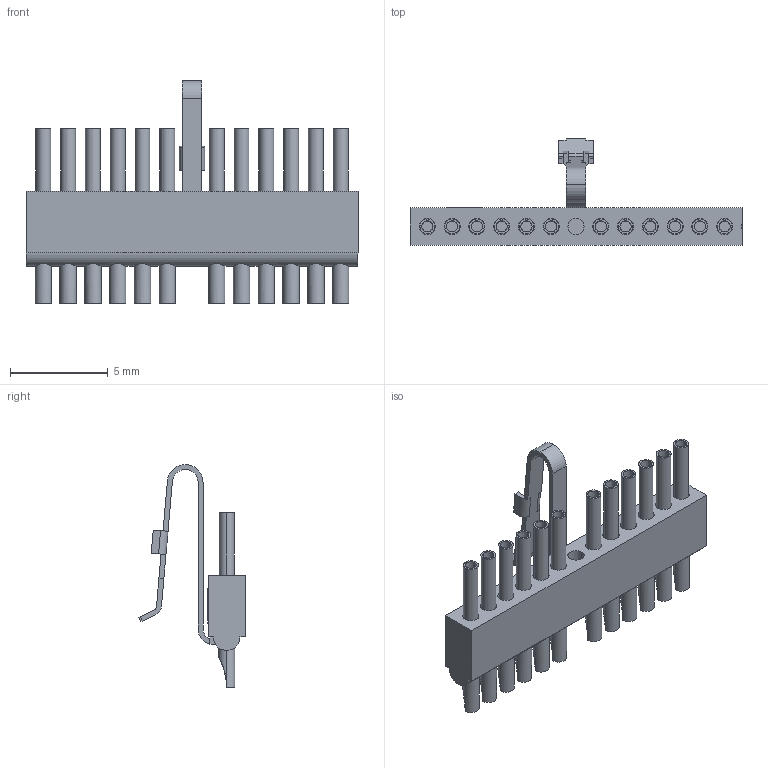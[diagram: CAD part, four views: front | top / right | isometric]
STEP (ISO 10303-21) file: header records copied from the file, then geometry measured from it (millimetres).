
FILE_DESCRIPTION (( 'STEP AP214' ), '1' );
FILE_NAME ('A25001-012.STEP', '2015-11-04T15:02:50', ( '' ), ( '' ), 'SwSTEP 2.0', 'SolidWorks 2015', '' );
FILE_SCHEMA (( 'AUTOMOTIVE_DESIGN' ));
Length unit declared in the file: inch
Products named in the file (1): A25001-012
Bounding box: 17.02 x 5.45 x 11.43 mm (x, y, z)
Volume: 123.5 mm3; surface area: 632.4 mm2
Topology: 1 solids, 13 shells, 410 faces, 873 edges, 556 vertices
Faces by surface type: cylinder 239, plane 144, torus 27
Entity records: 12096 total; most frequent: CARTESIAN_POINT 2910, DIRECTION 2038, ORIENTED_EDGE 1746, EDGE_CURVE 873, AXIS2_PLACEMENT_3D 828, VERTEX_POINT 556, EDGE_LOOP 501, CIRCLE 417
